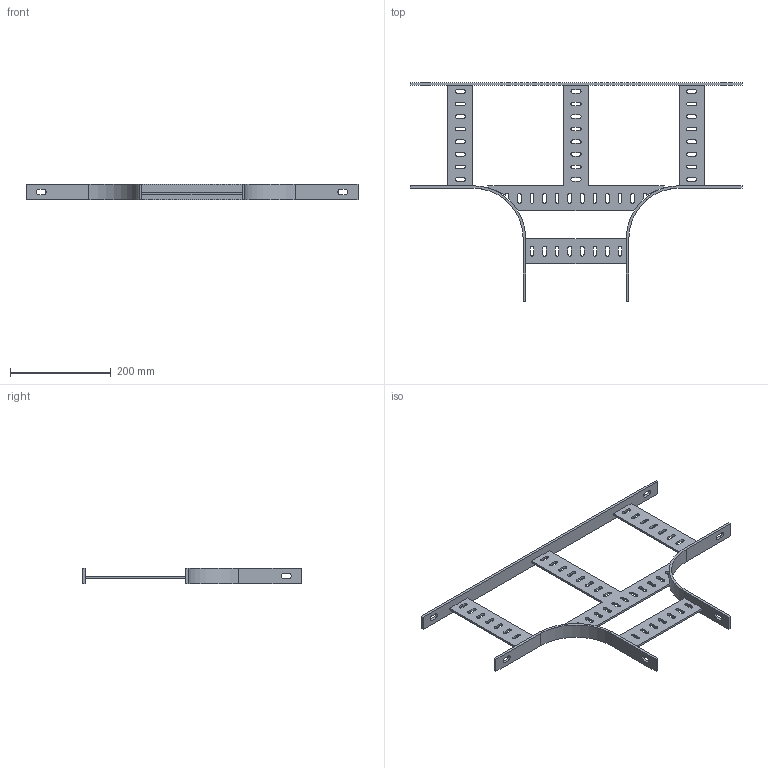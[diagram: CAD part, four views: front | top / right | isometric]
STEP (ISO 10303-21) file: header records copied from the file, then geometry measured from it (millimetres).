
FILE_DESCRIPTION(('Creo Elements/Direct Modeling STEP Export'),'2;1');
FILE_NAME('//pserver/office/EK/ME10-3D/3D-output/SLA 200F.stp','2020-03-10T15:09:27',(''),(''),'PTC Creo Elements/Direct Modeling STEP processor for AP214 (Solid Model)','PTC Creo Elements/Direct Modeling 19.0C 15-Aug-2015 (C) Parametric Technology GmbH','');
FILE_SCHEMA(('AUTOMOTIVE_DESIGN { 1 0 10303 214 1 1 1 1 }'));
Length unit declared in the file: millimetre
Products named in the file (2): SLA_200F
Assembly tree (1 placements, depth 2):
  SLA_200F
    SLA_200F
Bounding box: 660 x 435 x 30 mm (x, y, z)
Volume: 410275.1 mm3; surface area: 216686 mm2
Topology: 1 solids, 1 shells, 249 faces, 730 edges, 484 vertices
Faces by surface type: plane 147, cylinder 102
Entity records: 8496 total; most frequent: ORIENTED_EDGE 1460, CARTESIAN_POINT 1458, DIRECTION 1428, EDGE_CURVE 730, VECTOR 520, LINE 520, VERTEX_POINT 484, AXIS2_PLACEMENT_3D 454
